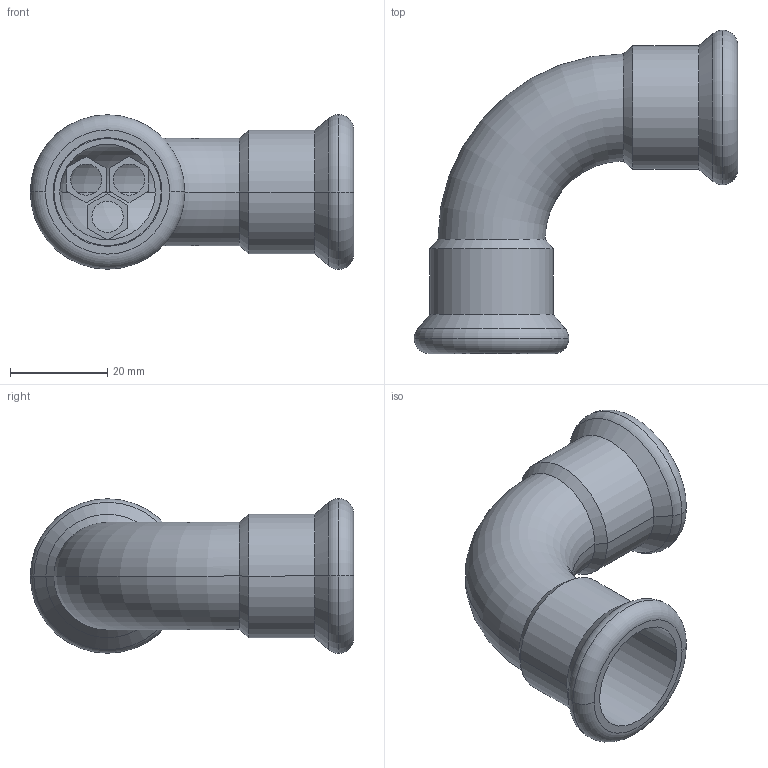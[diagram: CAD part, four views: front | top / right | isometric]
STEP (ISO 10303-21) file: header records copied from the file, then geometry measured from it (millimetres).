
FILE_DESCRIPTION(('OneSpaceDesigner STEP Export'),'2;1');
FILE_NAME('R2708 22x22.stp','2010-06-09T14:30:46',(''),(''),'OneSpace Designer STEP processor for AP214 (Solid Model)','OneSpace Modeling 15.00A 14-Mar-2007 (C) CoCreate Software GmbH','');
FILE_SCHEMA(('AUTOMOTIVE_DESIGN { 1 0 10303 214 1 1 1 1 }'));
Length unit declared in the file: millimetre
Products named in the file (2): R2708_22x22
Assembly tree (1 placements, depth 2):
  R2708_22x22
    R2708_22x22
Bounding box: 66.35 x 66.35 x 31.7 mm (x, y, z)
Volume: 12152.3 mm3; surface area: 14767.7 mm2
Topology: 1 solids, 1 shells, 114 faces, 283 edges, 181 vertices
Faces by surface type: plane 60, cylinder 34, torus 12, cone 8
Entity records: 3661 total; most frequent: CARTESIAN_POINT 1076, ORIENTED_EDGE 566, DIRECTION 472, EDGE_CURVE 283, VERTEX_POINT 181, VECTOR 174, LINE 174, AXIS2_PLACEMENT_3D 149
